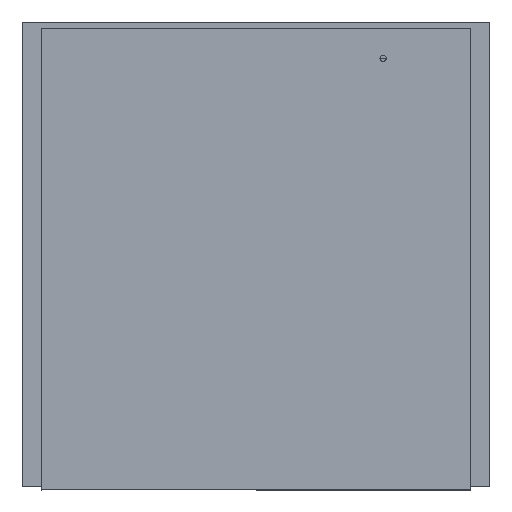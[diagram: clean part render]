
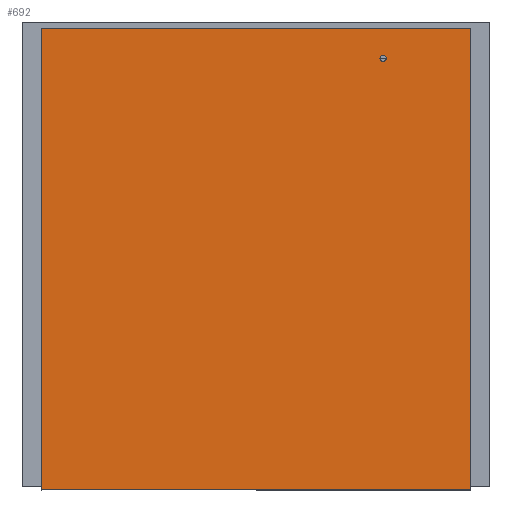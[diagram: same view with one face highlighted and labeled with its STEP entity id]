
A CAD part, left-side view. The second image highlights one B-rep face of the part: STEP entity #692.
In plain terms, the highlighted free-form (B-spline) face has degree [1, 1] with [2, 2] control points.
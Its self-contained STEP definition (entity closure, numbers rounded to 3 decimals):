
#692=ADVANCED_FACE('',(#967),#3253,.T.);
#967=FACE_OUTER_BOUND('',#1244,.T.);
#1244=EDGE_LOOP('',(#1980,#1981,#1982,#1983));
#1980=ORIENTED_EDGE('',*,*,#2655,.T.);
#1981=ORIENTED_EDGE('',*,*,#2653,.F.);
#1982=ORIENTED_EDGE('',*,*,#2622,.F.);
#1983=ORIENTED_EDGE('',*,*,#2649,.T.);
#2622=EDGE_CURVE('',#3022,#3023,#3789,.T.);
#2649=EDGE_CURVE('',#3022,#3040,#3804,.T.);
#2653=EDGE_CURVE('',#3023,#3043,#3808,.T.);
#2655=EDGE_CURVE('',#3040,#3043,#3810,.T.);
#3022=VERTEX_POINT('',#13440);
#3023=VERTEX_POINT('',#13441);
#3040=VERTEX_POINT('',#13458);
#3043=VERTEX_POINT('',#13461);
#3253=B_SPLINE_SURFACE_WITH_KNOTS('',1,1,((#13430,#13431),(#13432,#13433)),
.UNSPECIFIED.,.F.,.F.,.F.,(2,2),(2,2),(0.,0.986),
(0.,1.),.UNSPECIFIED.);
#3789=B_SPLINE_CURVE_WITH_KNOTS('',1,(#13082,#13083),.UNSPECIFIED.,.F.,.F.,
(2,2),(0.,1.),.UNSPECIFIED.);
#3804=B_SPLINE_CURVE_WITH_KNOTS('',3,(#13304,#13305,#13306,#13307,#13308,
#13309,#13310,#13311,#13312,#13313),.UNSPECIFIED.,.F.,.F.,(4,3,3,4),(0.,
0.333,0.667,0.986),.UNSPECIFIED.);
#3808=B_SPLINE_CURVE_WITH_KNOTS('',1,(#13328,#13329),.UNSPECIFIED.,.F.,.F.,
(2,2),(0.,0.986),.UNSPECIFIED.);
#3810=B_SPLINE_CURVE_WITH_KNOTS('',1,(#13332,#13333),.UNSPECIFIED.,.F.,.F.,
(2,2),(0.01,0.923),.UNSPECIFIED.);
#13082=CARTESIAN_POINT('',(-548.449,-273.801,0.));
#13083=CARTESIAN_POINT('',(-548.449,273.699,0.));
#13304=CARTESIAN_POINT('',(-548.449,-273.801,0.));
#13305=CARTESIAN_POINT('',(-548.449,-273.801,66.223));
#13306=CARTESIAN_POINT('',(-548.449,-273.801,132.445));
#13307=CARTESIAN_POINT('',(-548.449,-273.801,198.667));
#13308=CARTESIAN_POINT('',(-548.449,-273.801,264.889));
#13309=CARTESIAN_POINT('',(-548.449,-273.801,331.111));
#13310=CARTESIAN_POINT('',(-548.449,-273.801,397.334));
#13311=CARTESIAN_POINT('',(-548.449,-273.801,460.849));
#13312=CARTESIAN_POINT('',(-548.449,-273.801,524.364));
#13313=CARTESIAN_POINT('',(-548.449,-273.801,587.879));
#13328=CARTESIAN_POINT('',(-548.449,273.699,0.));
#13329=CARTESIAN_POINT('',(-548.449,273.699,587.879));
#13332=CARTESIAN_POINT('',(-548.449,-273.801,587.879));
#13333=CARTESIAN_POINT('',(-548.449,273.699,587.879));
#13430=CARTESIAN_POINT('',(-548.449,-273.801,0.));
#13431=CARTESIAN_POINT('',(-548.449,273.699,0.));
#13432=CARTESIAN_POINT('',(-548.449,-273.801,587.879));
#13433=CARTESIAN_POINT('',(-548.449,273.699,587.879));
#13440=CARTESIAN_POINT('',(-548.449,-273.801,0.));
#13441=CARTESIAN_POINT('',(-548.449,273.699,0.));
#13458=CARTESIAN_POINT('',(-548.449,-273.801,587.879));
#13461=CARTESIAN_POINT('',(-548.449,273.699,587.879));
